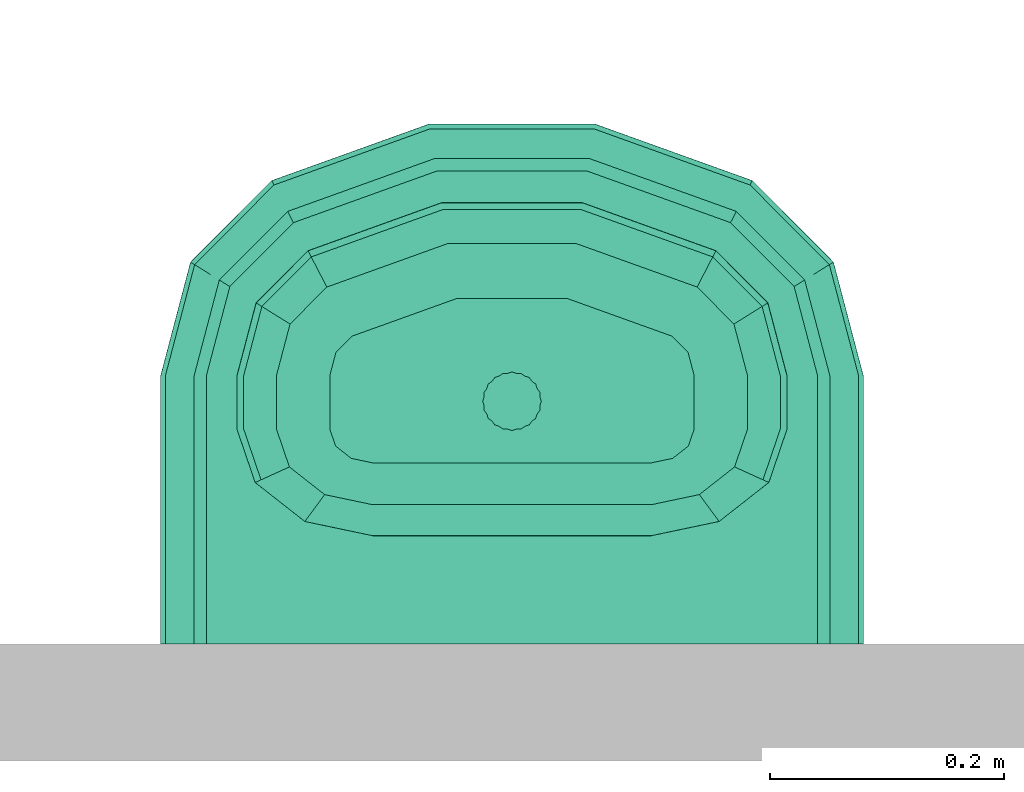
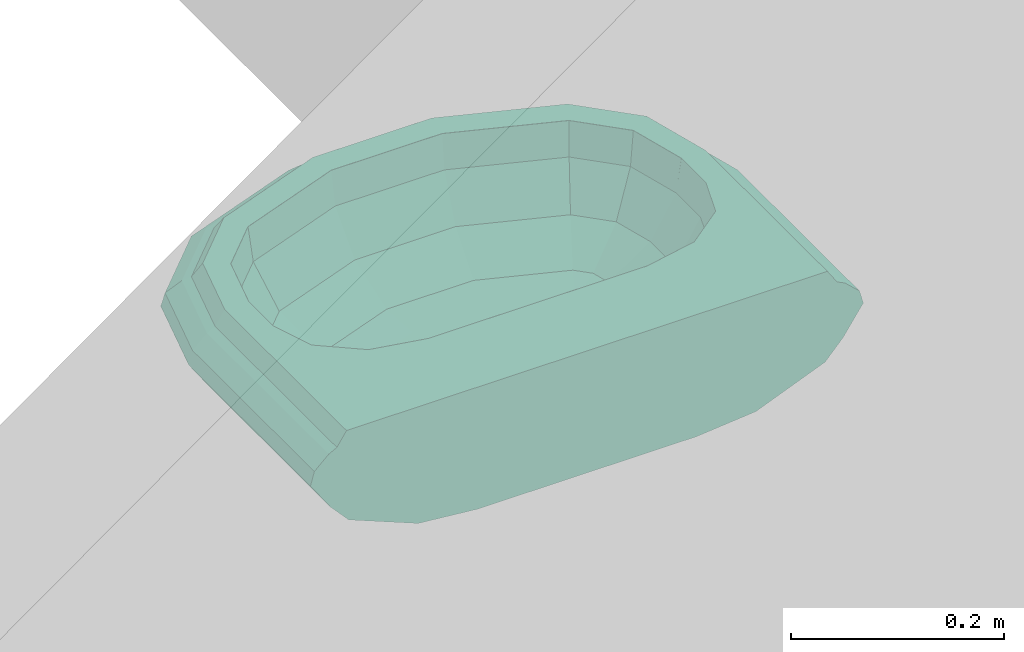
# One storey, part 43 of 48: 1 distribution flow element.
"""IFC2X3 building model written with IfcOpenShell, lengths in millimetres."""

from ifc_helpers import new_model, entity, si_unit, converted_unit, derived_unit, money_unit, direction, frame, origin_with_axes, place, context, subcontext, project, spatial, open_shell, faceted_brep, surface_model, source, transform, mapped, type_object, element, save


model = new_model("IFC2X3")

# Units and contexts
model_context = context("Model", 3, precision=0.01, world=origin_with_axes(), true_north=direction((0.0, 1.0)))
body_context = subcontext(model_context, "Body", "Model", "MODEL_VIEW")
ifc_project = project(units=[si_unit("LENGTHUNIT", "METRE", prefix="MILLI"), si_unit("AREAUNIT", "SQUARE_METRE"), si_unit("VOLUMEUNIT", "CUBIC_METRE"), converted_unit("PLANEANGLEUNIT", "DEGREE", entity("IfcPlaneAngleMeasure", 0.0174532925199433), si_unit("PLANEANGLEUNIT", "RADIAN"), dimensions=[0, 0, 0, 0, 0, 0, 0]), money_unit("USD"), converted_unit("TIMEUNIT", "Year", entity("IfcTimeMeasure", 31557600.0), si_unit("TIMEUNIT", "SECOND"), dimensions=[0, 0, 1, 0, 0, 0, 0]), si_unit("MASSUNIT", "GRAM", prefix="KILO"), si_unit("THERMODYNAMICTEMPERATUREUNIT", "DEGREE_CELSIUS"), si_unit("LUMINOUSINTENSITYUNIT", "LUMEN"), si_unit("ENERGYUNIT", "JOULE", prefix="MEGA"), derived_unit("THERMALCONDUCTANCEUNIT", [(si_unit("POWERUNIT", "WATT"), 1), (si_unit("LENGTHUNIT", "METRE"), -1), (si_unit("THERMODYNAMICTEMPERATUREUNIT", "KELVIN"), -1)]), derived_unit("SPECIFICHEATCAPACITYUNIT", [(si_unit("ENERGYUNIT", "JOULE"), 1), (si_unit("MASSUNIT", "GRAM", prefix="KILO"), -1), (si_unit("THERMODYNAMICTEMPERATUREUNIT", "KELVIN"), -1)]), derived_unit("MASSDENSITYUNIT", [(si_unit("MASSUNIT", "GRAM", prefix="KILO"), 1), (si_unit("VOLUMEUNIT", "CUBIC_METRE"), -1)])], contexts=[model_context])

# Site, building, storey
site_placement = place(None, origin_with_axes())
site = spatial("IfcSite", under=ifc_project, at=site_placement, Name="Site", CompositionType="ELEMENT")
building_placement = place(site_placement, origin_with_axes())
building = spatial("IfcBuilding", under=site, at=building_placement, Name="Building", CompositionType="ELEMENT")
storey_placement = place(building_placement, frame((0.0, 0.0, 3300.0), z_axis=(0.0, 0.0, 1.0), x_axis=(1.0, 0.0, 0.0)))
storey = spatial("IfcBuildingStorey", under=building, at=storey_placement, Name="1 ETG", CompositionType="ELEMENT", Elevation=3300.0)

# Distribution flow element
valve_type = type_object("IfcValveType", Name="Servant", PredefinedType="USERDEFINED")
shared_shape = source(origin_with_axes(), body_context, "Body", "SurfaceModel", [
    surface_model("IfcShellBasedSurfaceModel", [(-118.8260869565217, -229.090909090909, 880.0), (-155.5004347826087, -229.090909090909, 885.6030000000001), (-150.3400994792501, -248.7018865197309, 885.6030000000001), (-201.0339130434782, -229.090909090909, 916.175), (-189.4667012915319, -273.050131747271, 916.175), (-136.3112835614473, -262.7940626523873, 885.6030000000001), (-229.0121739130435, -229.090909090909, 962.175), (-213.508226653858, -288.0110260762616, 962.175), (-158.0202400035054, -304.6386188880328, 916.175), (-234.6521739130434, -229.090909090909, 999.9), (-218.3546395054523, -291.0269191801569, 999.9), (-171.3594108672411, -330.3502041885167, 962.175), (-234.7826086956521, -229.090909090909, 1000.0), (-218.4667212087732, -291.0966669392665, 1000.0), (-174.0483887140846, -335.5332762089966, 999.9), (-234.9130434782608, -229.090909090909, 1000.0), (-218.5788029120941, -291.166414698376, 1000.0), (-174.1105759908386, -335.653143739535, 1000.0), (-260.7130434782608, -229.090909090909, 1000.0), (-240.7485638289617, -304.9625214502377, 1000.0), (-174.1727632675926, -335.7730112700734, 1000.0), (-260.8434782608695, -229.090909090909, 1000.0), (-240.8606455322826, -305.0322692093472, 1000.0), (-186.4734066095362, -359.4828088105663, 1000.0), (-260.9739130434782, -229.090909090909, 999.9), (-240.9727272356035, -305.1020169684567, 999.9), (-186.5355938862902, -359.6026763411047, 1000.0), (-271.3017391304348, -229.090909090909, 984.298), (-249.8473565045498, -310.624644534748, 984.298), (-186.5977811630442, -359.722543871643, 999.9), (-280.154347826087, -229.090909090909, 979.6479999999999), (-257.4543417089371, -315.3584249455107, 979.6479999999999), (-191.5217697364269, -369.2136549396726, 984.298), (-295.8195652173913, -229.090909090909, 965.175), (-270.9153542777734, -323.7351308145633, 965.175), (-195.7424202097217, -377.3490642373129, 979.6479999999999), (-299.8408695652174, -229.090909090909, 950.0999999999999), (-274.3708331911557, -325.8854542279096, 950.0999999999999), (-203.2111121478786, -391.7451546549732, 965.175), (-299.971304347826, -229.090909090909, 950.0), (-274.4829148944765, -325.9552019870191, 950.0), (-205.1283458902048, -395.4406706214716, 950.0999999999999), (-299.8408695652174, -229.090909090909, 949.9), (-274.3708331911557, -325.8854542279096, 949.9), (-205.1905331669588, -395.56053815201, 950.0), (-278.1065217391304, -229.090909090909, 918.1), (-255.6946589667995, -314.2633851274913, 918.1), (-205.1283458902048, -395.4406706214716, 949.9), (-258.4943478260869, -229.090909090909, 896.627), (-238.8420540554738, -303.7761120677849, 896.627), (-194.7660799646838, -375.4671440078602, 918.1), (-183.1004347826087, -229.090909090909, 866.162), (-174.0565879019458, -263.460512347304, 866.162), (-185.4156010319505, -357.4438621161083, 896.627), (-118.8260869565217, -229.090909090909, 860.0), (-149.4701113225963, -288.1580321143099, 866.162)], [open_shell([[[0, 1, 2]], [[2, 1, 3, 4]], [[0, 2, 5]], [[4, 3, 6, 7]], [[5, 2, 4, 8]], [[7, 6, 9, 10]], [[8, 4, 7, 11]], [[10, 9, 12, 13]], [[11, 7, 10, 14]], [[13, 12, 15, 16]], [[14, 10, 13, 17]], [[16, 15, 18, 19]], [[17, 13, 16, 20]], [[19, 18, 21, 22]], [[20, 16, 19, 23]], [[22, 21, 24, 25]], [[23, 19, 22, 26]], [[25, 24, 27, 28]], [[26, 22, 25, 29]], [[28, 27, 30, 31]], [[29, 25, 28, 32]], [[31, 30, 33, 34]], [[32, 28, 31, 35]], [[34, 33, 36, 37]], [[35, 31, 34, 38]], [[37, 36, 39, 40]], [[38, 34, 37, 41]], [[40, 39, 42, 43]], [[41, 37, 40, 44]], [[43, 42, 45, 46]], [[44, 40, 43, 47]], [[46, 45, 48, 49]], [[47, 43, 46, 50]], [[49, 48, 51, 52]], [[50, 46, 49, 53]], [[52, 51, 54]], [[53, 49, 52, 55]], [[55, 52, 54]]])]),
    surface_model("IfcShellBasedSurfaceModel", [(118.8260869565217, -229.090909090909, 880.0), (136.3112835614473, -262.7940626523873, 885.6030000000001), (150.3400994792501, -248.7018865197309, 885.6030000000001), (158.0202400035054, -304.6386188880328, 916.175), (189.4667012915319, -273.050131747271, 916.175), (155.5004347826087, -229.090909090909, 885.6030000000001), (171.3594108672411, -330.3502041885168, 962.175), (213.508226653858, -288.0110260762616, 962.175), (201.0339130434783, -229.0909090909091, 916.175), (174.0483887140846, -335.5332762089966, 999.9), (218.3546395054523, -291.026919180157, 999.9), (229.0121739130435, -229.0909090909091, 962.175), (174.1105759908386, -335.653143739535, 1000.0), (218.4667212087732, -291.0966669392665, 1000.0), (234.6521739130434, -229.0909090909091, 999.9), (174.1727632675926, -335.7730112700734, 1000.0), (218.5788029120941, -291.166414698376, 1000.0), (234.7826086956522, -229.0909090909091, 1000.0), (186.4734066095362, -359.4828088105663, 1000.0), (240.7485638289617, -304.9625214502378, 1000.0), (234.9130434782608, -229.0909090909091, 1000.0), (186.5355938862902, -359.6026763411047, 1000.0), (240.8606455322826, -305.0322692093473, 1000.0), (260.7130434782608, -229.0909090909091, 1000.0), (186.5977811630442, -359.7225438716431, 999.9), (240.9727272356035, -305.1020169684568, 999.9), (260.8434782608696, -229.0909090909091, 1000.0), (191.5217697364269, -369.2136549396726, 984.298), (249.8473565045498, -310.6246445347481, 984.298), (260.9739130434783, -229.0909090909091, 999.9), (195.7424202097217, -377.3490642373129, 979.6479999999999), (257.4543417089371, -315.3584249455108, 979.6479999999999), (271.3017391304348, -229.0909090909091, 984.298), (203.2111121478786, -391.7451546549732, 965.175), (270.9153542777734, -323.7351308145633, 965.175), (280.154347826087, -229.0909090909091, 979.6479999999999), (205.1283458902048, -395.4406706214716, 950.0999999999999), (274.3708331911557, -325.8854542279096, 950.0999999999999), (295.8195652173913, -229.0909090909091, 965.175), (205.1905331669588, -395.56053815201, 950.0), (274.4829148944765, -325.9552019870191, 950.0), (299.8408695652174, -229.0909090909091, 950.0999999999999), (205.1283458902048, -395.4406706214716, 949.9), (274.3708331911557, -325.8854542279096, 949.9), (299.971304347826, -229.0909090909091, 950.0), (194.7660799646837, -375.4671440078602, 918.1), (255.6946589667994, -314.2633851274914, 918.1), (299.8408695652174, -229.0909090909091, 949.9), (185.4156010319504, -357.4438621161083, 896.627), (238.8420540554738, -303.776112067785, 896.627), (278.1065217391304, -229.0909090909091, 918.1), (149.4701113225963, -288.1580321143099, 866.162), (174.0565879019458, -263.460512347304, 866.162), (258.4943478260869, -229.0909090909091, 896.627), (118.8260869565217, -229.090909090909, 860.0), (183.1004347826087, -229.090909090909, 866.162)], [open_shell([[[0, 1, 2]], [[2, 1, 3, 4]], [[0, 2, 5]], [[4, 3, 6, 7]], [[5, 2, 4, 8]], [[7, 6, 9, 10]], [[8, 4, 7, 11]], [[10, 9, 12, 13]], [[11, 7, 10, 14]], [[13, 12, 15, 16]], [[14, 10, 13, 17]], [[16, 15, 18, 19]], [[17, 13, 16, 20]], [[19, 18, 21, 22]], [[20, 16, 19, 23]], [[22, 21, 24, 25]], [[23, 19, 22, 26]], [[25, 24, 27, 28]], [[26, 22, 25, 29]], [[28, 27, 30, 31]], [[29, 25, 28, 32]], [[31, 30, 33, 34]], [[32, 28, 31, 35]], [[34, 33, 36, 37]], [[35, 31, 34, 38]], [[37, 36, 39, 40]], [[38, 34, 37, 41]], [[40, 39, 42, 43]], [[41, 37, 40, 44]], [[43, 42, 45, 46]], [[44, 40, 43, 47]], [[46, 45, 48, 49]], [[47, 43, 46, 50]], [[49, 48, 51, 52]], [[50, 46, 49, 53]], [[52, 51, 54]], [[53, 49, 52, 55]], [[55, 52, 54]]])]),
    surface_model("IfcShellBasedSurfaceModel", [(-41.10372390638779, -257.0233893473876, 880.0), (-118.8398858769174, -229.0668508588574, 880.0), (-136.325082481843, -262.7700044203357, 885.6030000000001), (-47.15141310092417, -294.8398552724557, 885.6030000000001), (-158.0340389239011, -304.6145606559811, 916.175), (-54.65999446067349, -341.7913440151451, 916.175), (41.10329481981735, -257.0234643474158, 880.0), (47.15092088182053, -294.8399413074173, 885.6030000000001), (-171.3732097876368, -330.3261459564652, 962.175), (-59.27367775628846, -370.6409081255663, 962.175), (54.65942385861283, -341.7914437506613, 916.175), (118.8395034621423, -229.0670677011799, 880.0), (136.3246438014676, -262.7702531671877, 885.6030000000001), (-174.0621876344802, -335.509217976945, 999.9), (-60.2037274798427, -376.4565498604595, 999.9), (59.27305899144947, -370.6410162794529, 962.175), (158.033530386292, -304.614849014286, 916.175), (-174.1243749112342, -335.6290855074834, 1000.0), (-60.22523649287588, -376.5910466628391, 1000.0), (60.20309900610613, -376.4566597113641, 999.9), (171.3726583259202, -330.3264586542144, 962.175), (-174.1865621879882, -335.7489530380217, 1000.0), (-60.24674550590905, -376.7255434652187, 1000.0), (60.2246077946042, -376.5911565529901, 1000.0), (174.061627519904, -335.5095355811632, 999.9), (-186.4996429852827, -359.4827240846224, 1000.0), (-64.5055300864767, -403.3559103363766, 1000.0), (60.24611658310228, -376.7256533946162, 1000.0), (174.1238145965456, -335.629403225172, 1000.0), (-186.5618302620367, -359.6025916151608, 1000.0), (-64.52703909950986, -403.4904071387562, 1000.0), (64.50485670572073, -403.3560280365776, 1000.0), (174.1860016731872, -335.749270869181, 1000.0), (-186.6240175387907, -359.7224591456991, 999.9), (-64.54854811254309, -403.6249039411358, 999.9), (64.52636549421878, -403.4905248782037, 1000.0), (186.4990428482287, -359.4830643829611, 1000.0), (-191.5355686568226, -369.189596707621, 984.298), (-66.24732996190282, -414.2474613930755, 984.298), (64.54787428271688, -403.6250217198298, 999.9), (186.5612299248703, -359.6029320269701, 1000.0), (-195.7562191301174, -377.3250060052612, 979.6479999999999), (-67.70714667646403, -423.3757593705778, 979.6479999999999), (66.24663839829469, -414.2475822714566, 984.298), (186.623417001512, -359.7227996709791, 999.9), (-203.2249110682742, -391.7210964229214, 965.175), (-70.29037914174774, -439.528825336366, 965.175), (67.70643987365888, -423.3758829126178, 979.6479999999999), (191.5349523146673, -369.1899461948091, 984.298), (-205.1421448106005, -395.4166123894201, 950.0999999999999), (-70.95350201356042, -443.6753617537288, 950.0999999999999), (70.28964537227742, -439.5289535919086, 965.175), (195.7555892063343, -377.3253631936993, 979.6479999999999), (-205.2043320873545, -395.5364799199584, 950.0), (-70.97501102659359, -443.8098585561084, 950.0), (70.95276132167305, -443.6754912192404, 950.0999999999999), (203.2242571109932, -391.7214672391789, 965.175), (-205.1421448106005, -395.4166123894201, 949.9), (-70.95350201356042, -443.6753617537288, 949.9), (70.9742701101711, -443.8099880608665, 950.0), (205.1414846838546, -395.4169867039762, 950.0999999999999), (-194.7798788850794, -375.4430857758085, 918.1), (-67.36945517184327, -421.2641595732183, 918.1), (70.95276132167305, -443.6754912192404, 949.9), (205.2036717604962, -395.5368543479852, 950.0), (-185.4293999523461, -357.4198038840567, 896.627), (-64.13535997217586, -401.0412203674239, 896.627), (67.36875189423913, -421.2642824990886, 918.1), (205.1414846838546, -395.4169867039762, 949.9), (-149.483910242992, -288.1339738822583, 866.162), (-51.70272025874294, -323.2993786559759, 866.162), (64.13469045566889, -401.041337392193, 896.627), (194.7792521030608, -375.4434411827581, 918.1), (-118.8398858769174, -229.0668508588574, 860.0), (-41.10372390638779, -257.0233893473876, 860.0), (51.70218052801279, -323.2994729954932, 866.162), (185.4288032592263, -357.4201422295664, 896.627), (41.10329481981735, -257.0234643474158, 860.0), (149.4834292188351, -288.13424663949, 866.162), (118.8395034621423, -229.0670677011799, 860.0)], [open_shell([[[0, 1, 2, 3]], [[3, 2, 4, 5]], [[6, 0, 3, 7]], [[5, 4, 8, 9]], [[7, 3, 5, 10]], [[11, 6, 7, 12]], [[9, 8, 13, 14]], [[10, 5, 9, 15]], [[12, 7, 10, 16]], [[14, 13, 17, 18]], [[15, 9, 14, 19]], [[16, 10, 15, 20]], [[18, 17, 21, 22]], [[19, 14, 18, 23]], [[20, 15, 19, 24]], [[22, 21, 25, 26]], [[23, 18, 22, 27]], [[24, 19, 23, 28]], [[26, 25, 29, 30]], [[27, 22, 26, 31]], [[28, 23, 27, 32]], [[30, 29, 33, 34]], [[31, 26, 30, 35]], [[32, 27, 31, 36]], [[34, 33, 37, 38]], [[35, 30, 34, 39]], [[36, 31, 35, 40]], [[38, 37, 41, 42]], [[39, 34, 38, 43]], [[40, 35, 39, 44]], [[42, 41, 45, 46]], [[43, 38, 42, 47]], [[44, 39, 43, 48]], [[46, 45, 49, 50]], [[47, 42, 46, 51]], [[48, 43, 47, 52]], [[50, 49, 53, 54]], [[51, 46, 50, 55]], [[52, 47, 51, 56]], [[54, 53, 57, 58]], [[55, 50, 54, 59]], [[56, 51, 55, 60]], [[58, 57, 61, 62]], [[59, 54, 58, 63]], [[60, 55, 59, 64]], [[62, 61, 65, 66]], [[63, 58, 62, 67]], [[64, 59, 63, 68]], [[66, 65, 69, 70]], [[67, 62, 66, 71]], [[68, 63, 67, 72]], [[70, 69, 73, 74]], [[71, 66, 70, 75]], [[72, 67, 71, 76]], [[75, 70, 74, 77]], [[76, 71, 75, 78]], [[78, 75, 77, 79]]])]),
    surface_model("IfcShellBasedSurfaceModel", [(-118.8260869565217, -183.2727272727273, 860.0), (-183.1004347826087, -183.2727272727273, 866.162), (-183.1004347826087, -229.0909090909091, 866.162), (-118.8260869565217, -229.0909090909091, 860.0), (-258.4943478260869, -183.2727272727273, 896.627), (-258.4943478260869, -229.0909090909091, 896.627), (-278.1065217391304, -183.2727272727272, 918.1), (-278.1065217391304, -229.0909090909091, 918.1), (-299.971304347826, -183.2727272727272, 950.0), (-299.971304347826, -229.090909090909, 950.0), (-295.8195652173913, -183.2727272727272, 965.175), (-295.8195652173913, -229.090909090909, 965.175), (-280.154347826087, -183.2727272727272, 979.6479999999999), (-280.154347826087, -229.090909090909, 979.6479999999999), (-271.3017391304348, -183.2727272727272, 984.298), (-271.3017391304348, -229.090909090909, 984.298), (-260.8434782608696, -183.2727272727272, 1000.0), (-260.8434782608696, -229.090909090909, 1000.0), (-234.7826086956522, -183.2727272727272, 1000.0), (-234.7826086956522, -229.090909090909, 1000.0), (-229.0121739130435, -183.2727272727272, 962.175), (-229.0121739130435, -229.0909090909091, 962.175), (-201.0339130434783, -183.2727272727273, 916.175), (-201.0339130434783, -229.0909090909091, 916.175), (-155.5004347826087, -183.2727272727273, 885.6030000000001), (-155.5004347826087, -229.0909090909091, 885.6030000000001), (-118.8260869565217, -183.2727272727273, 880.0), (-118.8260869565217, -229.0909090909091, 880.0)], [open_shell([[[0, 1, 2, 3]], [[1, 4, 5, 2]], [[4, 6, 7, 5]], [[6, 8, 9, 7]], [[8, 10, 11, 9]], [[10, 12, 13, 11]], [[12, 14, 15, 13]], [[14, 16, 17, 15]], [[16, 18, 19, 17]], [[18, 20, 21, 19]], [[20, 22, 23, 21]], [[22, 24, 25, 23]], [[24, 26, 27, 25]]])]),
    surface_model("IfcShellBasedSurfaceModel", [(118.8260869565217, -183.2727272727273, 860.0), (118.8260869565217, -229.0909090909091, 860.0), (183.1004347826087, -229.0909090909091, 866.162), (183.1004347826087, -183.2727272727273, 866.162), (258.4943478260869, -229.0909090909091, 896.627), (258.4943478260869, -183.2727272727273, 896.627), (278.1065217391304, -229.0909090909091, 918.1), (278.1065217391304, -183.2727272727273, 918.1), (299.971304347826, -229.0909090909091, 950.0), (299.971304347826, -183.2727272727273, 950.0), (295.8195652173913, -229.0909090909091, 965.175), (295.8195652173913, -183.2727272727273, 965.175), (280.154347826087, -229.0909090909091, 979.6479999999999), (280.154347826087, -183.2727272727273, 979.6479999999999), (271.3017391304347, -229.0909090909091, 984.298), (271.3017391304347, -183.2727272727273, 984.298), (260.8434782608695, -229.0909090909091, 1000.0), (260.8434782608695, -183.2727272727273, 1000.0), (234.7826086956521, -229.0909090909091, 1000.0), (234.7826086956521, -183.2727272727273, 1000.0), (229.0121739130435, -229.0909090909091, 962.175), (229.0121739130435, -183.2727272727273, 962.175), (201.0339130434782, -229.0909090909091, 916.175), (201.0339130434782, -183.2727272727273, 916.175), (155.5004347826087, -229.0909090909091, 885.6030000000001), (155.5004347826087, -183.2727272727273, 885.6030000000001), (118.8260869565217, -229.0909090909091, 880.0), (118.8260869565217, -183.2727272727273, 880.0)], [open_shell([[[0, 1, 2, 3]], [[3, 2, 4, 5]], [[5, 4, 6, 7]], [[7, 6, 8, 9]], [[9, 8, 10, 11]], [[11, 10, 12, 13]], [[13, 12, 14, 15]], [[15, 14, 16, 17]], [[17, 16, 18, 19]], [[19, 18, 20, 21]], [[21, 20, 22, 23]], [[23, 22, 24, 25]], [[25, 24, 26, 27]]])]),
    surface_model("IfcShellBasedSurfaceModel", [(-118.8260869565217, 0.0, 860.0), (-183.1004347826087, 0.0, 866.162), (-183.1004347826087, -183.2727272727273, 866.162), (-118.8260869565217, -183.2727272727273, 860.0), (-258.4943478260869, 0.0, 896.627), (-258.4943478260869, -183.2727272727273, 896.627), (-278.1065217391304, 0.0, 918.1), (-278.1065217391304, -183.2727272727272, 918.1), (-299.971304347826, 0.0, 950.0), (-299.971304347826, -183.2727272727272, 950.0), (-295.8195652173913, 0.0, 965.175), (-295.8195652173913, -183.2727272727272, 965.175), (-280.154347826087, 0.0, 979.6479999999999), (-280.154347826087, -183.2727272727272, 979.6479999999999), (-271.3017391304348, 0.0, 984.298), (-271.3017391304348, -183.2727272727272, 984.298), (-260.8434782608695, 0.0, 1000.0), (-260.8434782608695, -183.2727272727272, 1000.0)], [open_shell([[[0, 1, 2, 3]], [[1, 4, 5, 2]], [[4, 6, 7, 5]], [[6, 8, 9, 7]], [[8, 10, 11, 9]], [[10, 12, 13, 11]], [[12, 14, 15, 13]], [[14, 16, 17, 15]]])]),
    surface_model("IfcShellBasedSurfaceModel", [(118.8260869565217, 0.0, 860.0), (118.8260869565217, -183.2727272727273, 860.0), (183.1004347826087, -183.2727272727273, 866.162), (183.1004347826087, 0.0, 866.162), (258.4943478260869, -183.2727272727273, 896.627), (258.4943478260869, 0.0, 896.627), (278.1065217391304, -183.2727272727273, 918.1), (278.1065217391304, 0.0, 918.1), (299.971304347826, -183.2727272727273, 950.0), (299.971304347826, 0.0, 950.0), (295.8195652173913, -183.2727272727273, 965.175), (295.8195652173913, 0.0, 965.175), (280.154347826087, -183.2727272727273, 979.6479999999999), (280.154347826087, 0.0, 979.6479999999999), (271.3017391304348, -183.2727272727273, 984.298), (271.3017391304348, 0.0, 984.298), (260.8434782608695, -183.2727272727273, 1000.0), (260.8434782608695, 0.0, 1000.0)], [open_shell([[[0, 1, 2, 3]], [[3, 2, 4, 5]], [[5, 4, 6, 7]], [[7, 6, 8, 9]], [[9, 8, 10, 11]], [[11, 10, 12, 13]], [[13, 12, 14, 15]], [[15, 14, 16, 17]]])]),
    surface_model("IfcShellBasedSurfaceModel", [(-118.8260869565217, 0.0, 860.0), (118.8260869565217, 0.0, 860.0), (118.8260869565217, -229.090909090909, 860.0), (41.0982368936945, -257.0388174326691, 860.0), (-41.09823689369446, -257.0388174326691, 860.0), (-118.8260869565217, -229.090909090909, 860.0)], [open_shell([[[0, 1, 2, 3, 4, 5]]])]),
    surface_model("IfcShellBasedSurfaceModel", [(-118.8379695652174, 0.0, 860.0), (-183.118744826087, 0.0, 866.1626162), (-258.5201972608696, 0.0, 896.6306627), (-278.1343323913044, 0.0, 918.10581), (-300.0013014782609, 0.0, 950.009), (-295.849147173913, 0.0, 965.1855175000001), (-280.1823632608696, 0.0, 979.6599647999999), (-271.3288693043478, 0.0, 984.3104298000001), (-260.8695626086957, 0.0, 1000.014), (260.8695626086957, 0.0, 1000.014), (271.3288693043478, 0.0, 984.3104298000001), (280.1823632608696, 0.0, 979.6599647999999), (295.849147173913, 0.0, 965.1855175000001), (300.0013014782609, 0.0, 950.009), (278.1343323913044, 0.0, 918.10581), (258.5201972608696, 0.0, 896.6306627), (183.118744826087, 0.0, 866.1626162), (118.8379695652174, 0.0, 860.0)], [open_shell([[[0, 1, 2, 3, 4, 5, 6, 7, 8, 9, 10, 11, 12, 13, 14, 15, 16, 17]]])]),
    surface_model("IfcShellBasedSurfaceModel", [(-118.8260869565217, -182.7272727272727, 880.0), (118.8260869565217, -182.7272727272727, 880.0), (118.8260869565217, -229.090909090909, 880.0), (41.0982368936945, -257.0388174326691, 880.0), (-41.09823689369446, -257.0388174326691, 880.0), (-118.8260869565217, -229.090909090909, 880.0), (22.82608695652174, -207.1363636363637, 880.0), (21.70889874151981, -199.762094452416, 880.0), (18.46669226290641, -193.1096701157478, 880.0), (13.41683728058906, -187.8302762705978, 880.0), (7.053648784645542, -184.4406967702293, 880.0), (0.0, -183.2727272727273, 880.0), (-7.053648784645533, -184.4406967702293, 880.0), (-13.41683728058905, -187.8302762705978, 880.0), (-18.4666922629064, -193.1096701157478, 880.0), (-21.70889874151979, -199.762094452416, 880.0), (-22.82608695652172, -207.1363636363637, 880.0), (-21.7088987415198, -214.5106328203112, 880.0), (-18.4666922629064, -221.1630571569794, 880.0), (-13.41683728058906, -226.4424510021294, 880.0), (-7.053648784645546, -229.8320305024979, 880.0), (0.0, -231.0, 880.0), (7.05364878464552, -229.832030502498, 880.0), (13.41683728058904, -226.4424510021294, 880.0), (18.46669226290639, -221.1630571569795, 880.0), (21.70889874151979, -214.5106328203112, 880.0)], [open_shell([[[0, 1, 2, 3, 4, 5], [6, 7, 8, 9, 10, 11, 12, 13, 14, 15, 16, 17, 18, 19, 20, 21, 22, 23, 24, 25]]])]),
    surface_model("IfcShellBasedSurfaceModel", [(-260.8695652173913, -183.2391344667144, 1000.0), (-260.8695652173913, 4.141527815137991e-07, 1000.0), (260.8695652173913, 4.141527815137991e-07, 1000.0), (260.8695652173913, -183.2391344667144, 1000.0), (234.7826086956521, -183.2391344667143, 1000.0), (219.2473805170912, -137.7618617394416, 1000.0), (176.8043478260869, -104.4701875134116, 1000.0), (118.8260869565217, -92.28458901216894, 1000.0), (-118.8260869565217, -92.28458901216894, 1000.0), (-176.8043478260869, -104.4701875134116, 1000.0), (-219.2473805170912, -137.7618617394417, 1000.0), (-234.7826086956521, -183.2391344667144, 1000.0)], [open_shell([[[0, 1, 2, 3, 4, 5, 6, 7, 8, 9, 10, 11]]])]),
    surface_model("IfcShellBasedSurfaceModel", [(-176.8043478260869, -104.5037803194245, 1000.0), (-118.8260869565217, -92.3181818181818, 1000.0), (-118.8260869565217, -96.84442376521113, 962.175), (-173.9191304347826, -108.4236208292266, 962.175), (-118.8260869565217, -118.7901492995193, 916.175), (-159.9299999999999, -127.4291766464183, 916.175), (-219.2473805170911, -137.7954545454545, 1000.0), (-214.2500374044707, -140.0585755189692, 962.175), (-118.8260869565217, -154.5059223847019, 885.6030000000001), (-137.1632608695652, -158.3599434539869, 885.6030000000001), (-190.0201527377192, -151.0314382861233, 916.175), (-234.7826086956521, -183.2727272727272, 1000.0), (-229.0121739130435, -183.2727272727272, 962.175), (-118.8260869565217, -183.2727272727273, 880.0), (-150.5870038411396, -168.8893248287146, 885.6030000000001), (-201.0339130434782, -183.2727272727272, 916.175), (-155.5004347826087, -183.2727272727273, 885.6030000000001)], [open_shell([[[0, 1, 2, 3]], [[3, 2, 4, 5]], [[6, 0, 3, 7]], [[5, 4, 8, 9]], [[7, 3, 5, 10]], [[11, 6, 7, 12]], [[9, 8, 13]], [[10, 5, 9, 14]], [[12, 7, 10, 15]], [[14, 9, 13]], [[15, 10, 14, 16]], [[16, 14, 13]]])]),
    surface_model("IfcShellBasedSurfaceModel", [(219.2473805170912, -137.7954545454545, 1000.0), (234.7826086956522, -183.2727272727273, 1000.0), (229.0121739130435, -183.2727272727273, 962.175), (214.2500374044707, -140.0585755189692, 962.175), (201.0339130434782, -183.2727272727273, 916.175), (190.0201527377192, -151.0314382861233, 916.175), (176.8043478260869, -104.5037803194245, 1000.0), (173.9191304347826, -108.4236208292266, 962.175), (155.5004347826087, -183.2727272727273, 885.6030000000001), (150.5870038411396, -168.8893248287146, 885.6030000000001), (159.93, -127.4291766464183, 916.175), (118.8260869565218, -92.3181818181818, 1000.0), (118.8260869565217, -96.84442376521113, 962.175), (118.8260869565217, -183.2727272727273, 880.0), (137.1632608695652, -158.3599434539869, 885.6030000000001), (118.8260869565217, -118.7901492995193, 916.175), (118.8260869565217, -154.5059223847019, 885.6030000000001)], [open_shell([[[0, 1, 2, 3]], [[3, 2, 4, 5]], [[6, 0, 3, 7]], [[5, 4, 8, 9]], [[7, 3, 5, 10]], [[11, 6, 7, 12]], [[9, 8, 13]], [[10, 5, 9, 14]], [[12, 7, 10, 15]], [[14, 9, 13]], [[15, 10, 14, 16]], [[16, 14, 13]]])]),
    surface_model("IfcShellBasedSurfaceModel", [(118.8260869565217, -92.3181818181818, 1000.0), (118.8260869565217, -96.84442376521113, 962.175), (-118.8260869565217, -96.84442376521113, 962.175), (-118.8260869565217, -92.3181818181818, 1000.0), (118.8260869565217, -118.7901492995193, 916.175), (-118.8260869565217, -118.7901492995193, 916.175), (118.8260869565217, -154.5059223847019, 885.6030000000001), (-118.8260869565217, -154.5059223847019, 885.6030000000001), (118.8260869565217, -183.2727272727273, 880.0), (-118.8260869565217, -183.2727272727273, 880.0)], [open_shell([[[0, 1, 2, 3]], [[1, 4, 5, 2]], [[4, 6, 7, 5]], [[6, 8, 9, 7]]])]),
    faceted_brep([(20.22542485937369, -221.8296313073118, 881.0), (7.725424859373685, -230.9114129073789, 881.0), (-7.725424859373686, -230.9114129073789, 881.0), (-20.22542485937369, -221.8296313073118, 881.0), (-25.0, -207.135, 881.0), (-20.22542485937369, -192.4403686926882, 881.0), (-7.725424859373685, -183.3585870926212, 881.0), (7.725424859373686, -183.3585870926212, 881.0), (20.22542485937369, -192.4403686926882, 881.0), (25.0, -207.135, 881.0), (20.22542485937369, -221.8296313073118, 886.0), (7.725424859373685, -230.9114129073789, 886.0), (-7.725424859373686, -230.9114129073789, 886.0), (-20.22542485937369, -221.8296313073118, 886.0), (-25.0, -207.135, 886.0), (-20.22542485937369, -192.4403686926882, 886.0), (-7.725424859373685, -183.3585870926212, 886.0), (7.725424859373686, -183.3585870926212, 886.0), (20.22542485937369, -192.4403686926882, 886.0), (25.0, -207.135, 886.0)], [[[0, 1, 2, 3, 4, 5, 6, 7, 8, 9]], [[1, 0, 10, 11]], [[2, 1, 11, 12]], [[3, 2, 12, 13]], [[4, 3, 13, 14]], [[5, 4, 14, 15]], [[6, 5, 15, 16]], [[7, 6, 16, 17]], [[8, 7, 17, 18]], [[9, 8, 18, 19]], [[0, 9, 19, 10]], [[10, 19, 18, 17, 16, 15, 14, 13, 12, 11]]]),
    surface_model("IfcShellBasedSurfaceModel", [(0.0, -207.135, 888.0), (0.0, -194.51309443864, 887.4975737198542), (-7.418969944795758, -196.9236638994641, 887.4975737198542), (7.418969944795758, -196.9236638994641, 887.4975737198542), (0.0, -182.135, 886.0), (-14.69463130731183, -186.9095751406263, 886.0), (-12.00414553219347, -203.2346166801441, 887.4975737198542), (12.00414553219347, -203.2346166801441, 887.4975737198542), (14.69463130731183, -186.9095751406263, 886.0), (-23.77641290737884, -199.4095751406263, 886.0), (-12.00414553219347, -211.0353833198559, 887.4975737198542), (12.00414553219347, -211.0353833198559, 887.4975737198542), (23.77641290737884, -199.4095751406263, 886.0), (-23.77641290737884, -214.8604248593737, 886.0), (-7.418969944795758, -217.3463361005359, 887.4975737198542), (7.418969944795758, -217.3463361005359, 887.4975737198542), (23.77641290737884, -214.8604248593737, 886.0), (-14.69463130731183, -227.3604248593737, 886.0), (0.0, -219.75690556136, 887.4975737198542), (14.69463130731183, -227.3604248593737, 886.0), (0.0, -232.135, 886.0)], [open_shell([[[0, 1, 2]], [[0, 3, 1]], [[2, 1, 4, 5]], [[0, 2, 6]], [[0, 7, 3]], [[1, 3, 8, 4]], [[6, 2, 5, 9]], [[0, 6, 10]], [[0, 11, 7]], [[3, 7, 12, 8]], [[10, 6, 9, 13]], [[0, 10, 14]], [[0, 15, 11]], [[7, 11, 16, 12]], [[14, 10, 13, 17]], [[0, 14, 18]], [[0, 18, 15]], [[11, 15, 19, 16]], [[18, 14, 17, 20]], [[15, 18, 20, 19]]])]),
])
distribution_flow_element_placement = place(storey_placement, frame((41609.0162726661, 26399.87564053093, 100.0000000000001), z_axis=(0.0, 0.0, 1.0), x_axis=(-0.9999999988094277, -4.879697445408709e-05, 0.0)))
element("IfcDistributionFlowElement", 1, at=distribution_flow_element_placement, inside=storey, type_object=valve_type, Name="FU - 001", ObjectType="Distribution Flow Element", context=body_context, shape_type="MappedRepresentation", body=[
    mapped(shared_shape, transform((0.0, 0.0, 0.0))),
])

save(model, "model.ifc")
